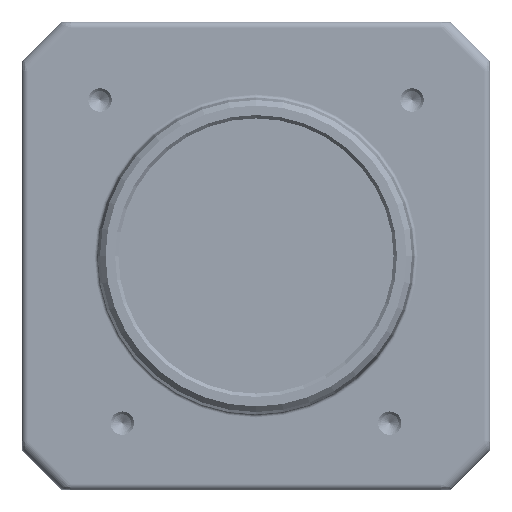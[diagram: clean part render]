
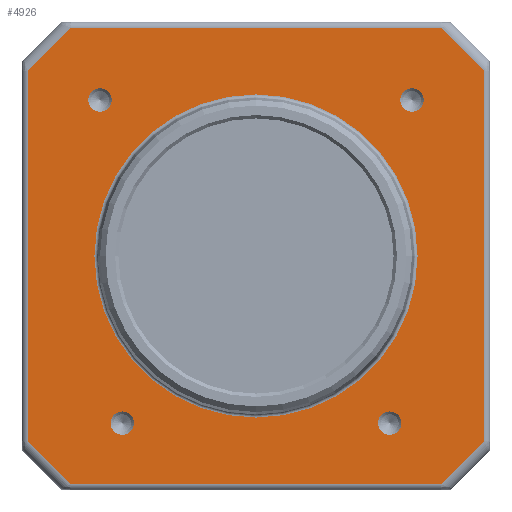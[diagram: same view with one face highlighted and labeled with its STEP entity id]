
A CAD part, left-side view. The second image highlights one B-rep face of the part: STEP entity #4926.
In plain terms, the highlighted planar face has unit normal (-1, 0, 0).
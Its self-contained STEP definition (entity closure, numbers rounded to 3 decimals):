
#572=CARTESIAN_POINT('',(0.,20.5,16.586));
#1018=CARTESIAN_POINT('',(0.,-20.5,-16.586));
#1069=CARTESIAN_POINT('',(0.,16.586,-20.5));
#1105=CARTESIAN_POINT('',(0.,0.,0.));
#1106=DIRECTION('',(-1.,0.,0.));
#1107=DIRECTION('',(0.,-1.,0.));
#1108=AXIS2_PLACEMENT_3D('',#1105,#1106,#1107);
#1110=CARTESIAN_POINT('',(0.,0.,0.));
#1111=DIRECTION('',(-1.,0.,0.));
#1112=DIRECTION('',(0.,1.,0.));
#1113=AXIS2_PLACEMENT_3D('',#1110,#1111,#1112);
#1115=DIRECTION('',(0.,0.,-1.));
#1116=VECTOR('',#1115,33.172);
#1117=CARTESIAN_POINT('',(0.,-20.5,16.586));
#1118=LINE('',#1117,#1116);
#1119=DIRECTION('',(0.,-0.707,0.707));
#1120=VECTOR('',#1119,5.536);
#1121=CARTESIAN_POINT('',(0.,-16.586,-20.5));
#1122=LINE('',#1121,#1120);
#1123=DIRECTION('',(0.,1.,0.));
#1124=VECTOR('',#1123,33.172);
#1125=CARTESIAN_POINT('',(0.,-16.586,-20.5));
#1126=LINE('',#1125,#1124);
#1127=DIRECTION('',(0.,-0.707,-0.707));
#1128=VECTOR('',#1127,5.536);
#1129=CARTESIAN_POINT('',(0.,20.5,-16.586));
#1130=LINE('',#1129,#1128);
#1131=DIRECTION('',(0.,0.,1.));
#1132=VECTOR('',#1131,33.172);
#1133=CARTESIAN_POINT('',(0.,20.5,-16.586));
#1134=LINE('',#1133,#1132);
#1135=DIRECTION('',(0.,0.707,-0.707));
#1136=VECTOR('',#1135,5.536);
#1137=CARTESIAN_POINT('',(0.,16.586,20.5));
#1138=LINE('',#1137,#1136);
#1139=DIRECTION('',(0.,-1.,0.));
#1140=VECTOR('',#1139,33.172);
#1141=CARTESIAN_POINT('',(0.,16.586,20.5));
#1142=LINE('',#1141,#1140);
#1143=DIRECTION('',(0.,0.707,0.707));
#1144=VECTOR('',#1143,5.536);
#1145=CARTESIAN_POINT('',(0.,-20.5,16.586));
#1146=LINE('',#1145,#1144);
#1147=CARTESIAN_POINT('',(0.,-12.,-15.));
#1148=DIRECTION('',(1.,0.,0.));
#1149=DIRECTION('',(0.,1.,0.));
#1150=AXIS2_PLACEMENT_3D('',#1147,#1148,#1149);
#1152=CARTESIAN_POINT('',(0.,-12.,-15.));
#1153=DIRECTION('',(1.,0.,0.));
#1154=DIRECTION('',(0.,-1.,0.));
#1155=AXIS2_PLACEMENT_3D('',#1152,#1153,#1154);
#1157=CARTESIAN_POINT('',(0.,12.,-15.));
#1158=DIRECTION('',(1.,0.,0.));
#1159=DIRECTION('',(0.,1.,0.));
#1160=AXIS2_PLACEMENT_3D('',#1157,#1158,#1159);
#1162=CARTESIAN_POINT('',(0.,12.,-15.));
#1163=DIRECTION('',(1.,0.,0.));
#1164=DIRECTION('',(0.,-1.,0.));
#1165=AXIS2_PLACEMENT_3D('',#1162,#1163,#1164);
#1167=CARTESIAN_POINT('',(0.,14.,14.));
#1168=DIRECTION('',(1.,0.,0.));
#1169=DIRECTION('',(0.,1.,0.));
#1170=AXIS2_PLACEMENT_3D('',#1167,#1168,#1169);
#1172=CARTESIAN_POINT('',(0.,14.,14.));
#1173=DIRECTION('',(1.,0.,0.));
#1174=DIRECTION('',(0.,-1.,0.));
#1175=AXIS2_PLACEMENT_3D('',#1172,#1173,#1174);
#1177=CARTESIAN_POINT('',(0.,-14.,14.));
#1178=DIRECTION('',(1.,0.,0.));
#1179=DIRECTION('',(0.,1.,0.));
#1180=AXIS2_PLACEMENT_3D('',#1177,#1178,#1179);
#1182=CARTESIAN_POINT('',(0.,-14.,14.));
#1183=DIRECTION('',(1.,0.,0.));
#1184=DIRECTION('',(0.,-1.,0.));
#1185=AXIS2_PLACEMENT_3D('',#1182,#1183,#1184);
#2393=CARTESIAN_POINT('',(0.,-16.586,20.5));
#2971=VERTEX_POINT('',#1018);
#2974=CARTESIAN_POINT('',(0.,-20.5,16.586));
#2975=VERTEX_POINT('',#2974);
#2991=VERTEX_POINT('',#1069);
#2994=CARTESIAN_POINT('',(0.,-16.586,-20.5));
#2995=VERTEX_POINT('',#2994);
#3011=VERTEX_POINT('',#572);
#3014=CARTESIAN_POINT('',(0.,20.5,-16.586));
#3015=VERTEX_POINT('',#3014);
#3031=VERTEX_POINT('',#2393);
#3034=CARTESIAN_POINT('',(0.,16.586,20.5));
#3035=VERTEX_POINT('',#3034);
#3146=CARTESIAN_POINT('',(0.,-14.5,0.));
#3147=CARTESIAN_POINT('',(0.,14.5,0.));
#3148=VERTEX_POINT('',#3146);
#3149=VERTEX_POINT('',#3147);
#3154=CARTESIAN_POINT('',(0.,-10.95,-15.));
#3155=CARTESIAN_POINT('',(0.,-13.05,-15.));
#3156=VERTEX_POINT('',#3154);
#3157=VERTEX_POINT('',#3155);
#3162=CARTESIAN_POINT('',(0.,13.05,-15.));
#3163=CARTESIAN_POINT('',(0.,10.95,-15.));
#3164=VERTEX_POINT('',#3162);
#3165=VERTEX_POINT('',#3163);
#3170=CARTESIAN_POINT('',(0.,15.05,14.));
#3171=CARTESIAN_POINT('',(0.,12.95,14.));
#3172=VERTEX_POINT('',#3170);
#3173=VERTEX_POINT('',#3171);
#3178=CARTESIAN_POINT('',(0.,-12.95,14.));
#3179=CARTESIAN_POINT('',(0.,-15.05,14.));
#3180=VERTEX_POINT('',#3178);
#3181=VERTEX_POINT('',#3179);
#4878=CARTESIAN_POINT('',(0.,0.,0.));
#4879=DIRECTION('',(1.,0.,0.));
#4880=DIRECTION('',(0.,-1.,0.));
#4881=AXIS2_PLACEMENT_3D('',#4878,#4879,#4880);
#4882=PLANE('',#4881);
#4884=ORIENTED_EDGE('',*,*,#4883,.T.);
#4885=ORIENTED_EDGE('',*,*,#4676,.F.);
#4886=ORIENTED_EDGE('',*,*,#4774,.T.);
#4887=ORIENTED_EDGE('',*,*,#4873,.F.);
#4888=ORIENTED_EDGE('',*,*,#3985,.T.);
#4889=ORIENTED_EDGE('',*,*,#4086,.F.);
#4891=ORIENTED_EDGE('',*,*,#4890,.T.);
#4893=ORIENTED_EDGE('',*,*,#4892,.F.);
#4894=EDGE_LOOP('',(#4884,#4885,#4886,#4887,#4888,#4889,#4891,#4893));
#4895=FACE_OUTER_BOUND('',#4894,.F.);
#4897=ORIENTED_EDGE('',*,*,#4896,.T.);
#4899=ORIENTED_EDGE('',*,*,#4898,.T.);
#4900=EDGE_LOOP('',(#4897,#4899));
#4901=FACE_BOUND('',#4900,.F.);
#4903=ORIENTED_EDGE('',*,*,#4902,.F.);
#4905=ORIENTED_EDGE('',*,*,#4904,.F.);
#4906=EDGE_LOOP('',(#4903,#4905));
#4907=FACE_BOUND('',#4906,.F.);
#4909=ORIENTED_EDGE('',*,*,#4908,.F.);
#4911=ORIENTED_EDGE('',*,*,#4910,.F.);
#4912=EDGE_LOOP('',(#4909,#4911));
#4913=FACE_BOUND('',#4912,.F.);
#4915=ORIENTED_EDGE('',*,*,#4914,.F.);
#4917=ORIENTED_EDGE('',*,*,#4916,.F.);
#4918=EDGE_LOOP('',(#4915,#4917));
#4919=FACE_BOUND('',#4918,.F.);
#4921=ORIENTED_EDGE('',*,*,#4920,.F.);
#4923=ORIENTED_EDGE('',*,*,#4922,.F.);
#4924=EDGE_LOOP('',(#4921,#4923));
#4925=FACE_BOUND('',#4924,.F.);
#4926=ADVANCED_FACE('',(#4895,#4901,#4907,#4913,#4919,#4925),#4882,.F.);
#1109=CIRCLE('',#1108,14.5);
#1114=CIRCLE('',#1113,14.5);
#1151=CIRCLE('',#1150,1.05);
#1156=CIRCLE('',#1155,1.05);
#1161=CIRCLE('',#1160,1.05);
#1166=CIRCLE('',#1165,1.05);
#1171=CIRCLE('',#1170,1.05);
#1176=CIRCLE('',#1175,1.05);
#1181=CIRCLE('',#1180,1.05);
#1186=CIRCLE('',#1185,1.05);
#3985=EDGE_CURVE('',#3015,#3011,#1134,.T.);
#4086=EDGE_CURVE('',#3035,#3011,#1138,.T.);
#4676=EDGE_CURVE('',#2995,#2971,#1122,.T.);
#4774=EDGE_CURVE('',#2995,#2991,#1126,.T.);
#4873=EDGE_CURVE('',#3015,#2991,#1130,.T.);
#4883=EDGE_CURVE('',#2975,#2971,#1118,.T.);
#4890=EDGE_CURVE('',#3035,#3031,#1142,.T.);
#4892=EDGE_CURVE('',#2975,#3031,#1146,.T.);
#4896=EDGE_CURVE('',#3148,#3149,#1109,.T.);
#4898=EDGE_CURVE('',#3149,#3148,#1114,.T.);
#4902=EDGE_CURVE('',#3156,#3157,#1151,.T.);
#4904=EDGE_CURVE('',#3157,#3156,#1156,.T.);
#4908=EDGE_CURVE('',#3164,#3165,#1161,.T.);
#4910=EDGE_CURVE('',#3165,#3164,#1166,.T.);
#4914=EDGE_CURVE('',#3172,#3173,#1171,.T.);
#4916=EDGE_CURVE('',#3173,#3172,#1176,.T.);
#4920=EDGE_CURVE('',#3180,#3181,#1181,.T.);
#4922=EDGE_CURVE('',#3181,#3180,#1186,.T.);
